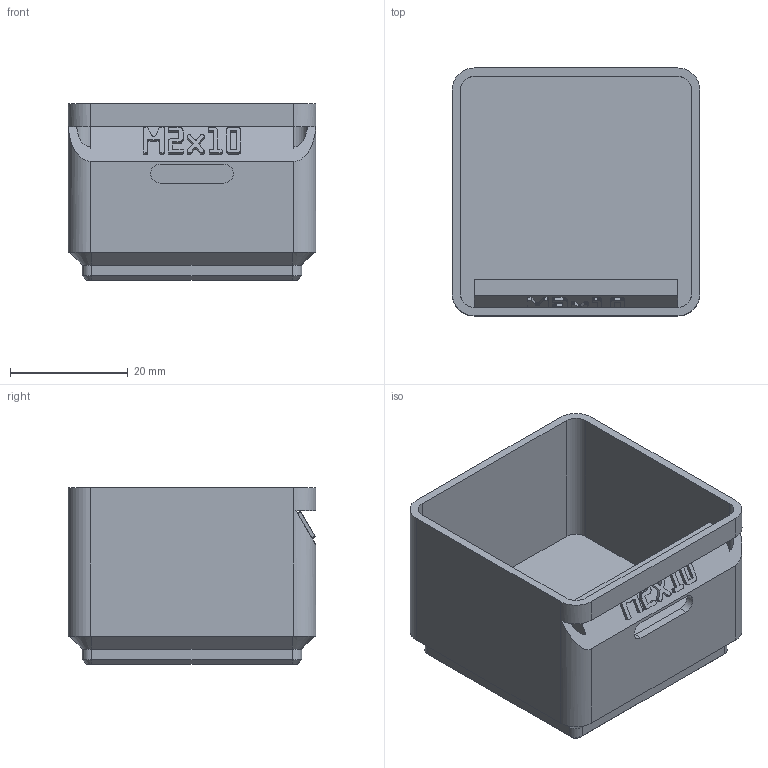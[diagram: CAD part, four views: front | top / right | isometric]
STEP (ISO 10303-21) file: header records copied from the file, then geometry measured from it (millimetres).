
FILE_DESCRIPTION(('Open CASCADE Model'),'2;1');
FILE_NAME('Open CASCADE Shape Model','2026-11-03T17:13:49',('Author'),( 'Open CASCADE'),'Open CASCADE STEP processor 8.0','build123d', 'Unknown');
FILE_SCHEMA(('AUTOMOTIVE_DESIGN { 1 0 10303 214 1 1 1 1 }'));
Length unit declared in the file: millimetre
Products named in the file (1): COMPOUND
Bounding box: 42 x 42 x 30 mm (x, y, z)
Volume: 14812.1 mm3; surface area: 12094.2 mm2
Topology: 1 solids, 1 shells, 512 faces, 1494 edges, 990 vertices
Faces by surface type: plane 490, cylinder 14, cone 8
Entity records: 35082 total; most frequent: CARTESIAN_POINT 7069, DIRECTION 4536, LINE 3394, VECTOR 3394, ORIENTED_EDGE 2988, PCURVE 2988, DEFINITIONAL_REPRESENTATION 2988, EDGE_CURVE 1494
